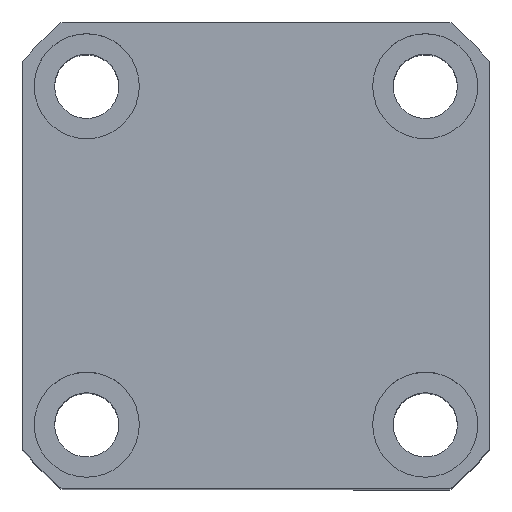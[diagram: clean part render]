
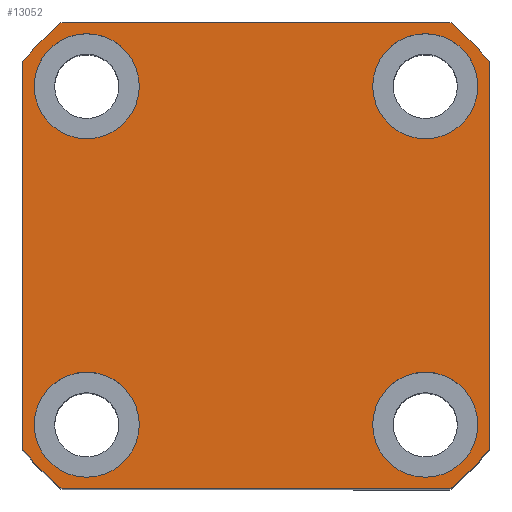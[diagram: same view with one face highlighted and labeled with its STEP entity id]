
A CAD part, top view. The second image highlights one B-rep face of the part: STEP entity #13052.
In plain terms, the highlighted planar face has unit normal (0, 0, 1).
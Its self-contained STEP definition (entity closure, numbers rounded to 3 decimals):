
#5 = CARTESIAN_POINT ( 'NONE',  ( 20., -29., 52.5 ) ) ;
#59 = CIRCLE ( 'NONE', #5314, 9. ) ;
#75 = FACE_BOUND ( 'NONE', #10125, .T. ) ;
#232 = CARTESIAN_POINT ( 'NONE',  ( 33.226, -40., 52.5 ) ) ;
#297 = VECTOR ( 'NONE', #7041, 1000. ) ;
#320 = VERTEX_POINT ( 'NONE', #5 ) ;
#355 = EDGE_CURVE ( 'NONE', #7343, #7057, #12745, .T. ) ;
#712 = DIRECTION ( 'NONE',  ( 1., 0., 0. ) ) ;
#805 = CIRCLE ( 'NONE', #6013, 9. ) ;
#885 = EDGE_LOOP ( 'NONE', ( #1182, #12646, #6541, #7180, #13482, #10115, #12843, #6097 ) ) ;
#949 = FACE_BOUND ( 'NONE', #9602, .T. ) ;
#1000 = DIRECTION ( 'NONE',  ( 0., 1., 0. ) ) ;
#1182 = ORIENTED_EDGE ( 'NONE', *, *, #7613, .T. ) ;
#1224 = CARTESIAN_POINT ( 'NONE',  ( 0., 0., 52.5 ) ) ;
#1284 = ORIENTED_EDGE ( 'NONE', *, *, #14601, .F. ) ;
#1506 = CARTESIAN_POINT ( 'NONE',  ( 29., 29., 52.5 ) ) ;
#1639 = AXIS2_PLACEMENT_3D ( 'NONE', #14542, #6299, #16078 ) ;
#1720 = CIRCLE ( 'NONE', #8929, 52. ) ;
#1885 = CARTESIAN_POINT ( 'NONE',  ( 38., -29., 52.5 ) ) ;
#1925 = CARTESIAN_POINT ( 'NONE',  ( -29., -29., 52.5 ) ) ;
#1964 = CARTESIAN_POINT ( 'NONE',  ( -40., 33.226, 52.5 ) ) ;
#2025 = CARTESIAN_POINT ( 'NONE',  ( 29., -29., 52.5 ) ) ;
#2386 = VECTOR ( 'NONE', #1000, 1000. ) ;
#2492 = ORIENTED_EDGE ( 'NONE', *, *, #16260, .F. ) ;
#2586 = VERTEX_POINT ( 'NONE', #10022 ) ;
#2589 = DIRECTION ( 'NONE',  ( 0., 0., 1. ) ) ;
#2641 = ORIENTED_EDGE ( 'NONE', *, *, #6786, .F. ) ;
#2750 = CARTESIAN_POINT ( 'NONE',  ( 38., 29., 52.5 ) ) ;
#2893 = VERTEX_POINT ( 'NONE', #13457 ) ;
#3118 = DIRECTION ( 'NONE',  ( 1., 0., 0. ) ) ;
#3120 = VERTEX_POINT ( 'NONE', #1885 ) ;
#3311 = AXIS2_PLACEMENT_3D ( 'NONE', #8675, #6195, #3118 ) ;
#3705 = ORIENTED_EDGE ( 'NONE', *, *, #16728, .F. ) ;
#3723 = LINE ( 'NONE', #6678, #17517 ) ;
#3771 = AXIS2_PLACEMENT_3D ( 'NONE', #1224, #2589, #3947 ) ;
#3815 = CARTESIAN_POINT ( 'NONE',  ( -29., -29., 52.5 ) ) ;
#3947 = DIRECTION ( 'NONE',  ( 1., 0., 0. ) ) ;
#3952 = CARTESIAN_POINT ( 'NONE',  ( -40., -33.226, 52.5 ) ) ;
#4203 = VERTEX_POINT ( 'NONE', #14798 ) ;
#4490 = CARTESIAN_POINT ( 'NONE',  ( -33.226, -40., 52.5 ) ) ;
#4491 = AXIS2_PLACEMENT_3D ( 'NONE', #10481, #16188, #9289 ) ;
#4598 = LINE ( 'NONE', #15132, #2386 ) ;
#5074 = AXIS2_PLACEMENT_3D ( 'NONE', #3815, #6624, #5367 ) ;
#5087 = DIRECTION ( 'NONE',  ( 1., 0., 0. ) ) ;
#5314 = AXIS2_PLACEMENT_3D ( 'NONE', #11902, #11961, #5087 ) ;
#5367 = DIRECTION ( 'NONE',  ( 1., 0., 0. ) ) ;
#5499 = AXIS2_PLACEMENT_3D ( 'NONE', #17402, #14632, #7532 ) ;
#5603 = DIRECTION ( 'NONE',  ( 1., 0., 0. ) ) ;
#5848 = EDGE_CURVE ( 'NONE', #7571, #11820, #9327, .T. ) ;
#6013 = AXIS2_PLACEMENT_3D ( 'NONE', #2025, #11796, #15779 ) ;
#6097 = ORIENTED_EDGE ( 'NONE', *, *, #355, .T. ) ;
#6174 = CIRCLE ( 'NONE', #12873, 9. ) ;
#6195 = DIRECTION ( 'NONE',  ( 0., 0., 1. ) ) ;
#6247 = CARTESIAN_POINT ( 'NONE',  ( 0., 0., 52.5 ) ) ;
#6299 = DIRECTION ( 'NONE',  ( 0., 0., 1. ) ) ;
#6405 = CIRCLE ( 'NONE', #15861, 9. ) ;
#6424 = EDGE_CURVE ( 'NONE', #3120, #320, #805, .T. ) ;
#6541 = ORIENTED_EDGE ( 'NONE', *, *, #5848, .T. ) ;
#6614 = ORIENTED_EDGE ( 'NONE', *, *, #6424, .F. ) ;
#6624 = DIRECTION ( 'NONE',  ( 0., 0., 1. ) ) ;
#6678 = CARTESIAN_POINT ( 'NONE',  ( -40., 33.226, 52.5 ) ) ;
#6786 = EDGE_CURVE ( 'NONE', #4203, #2893, #59, .T. ) ;
#6859 = CARTESIAN_POINT ( 'NONE',  ( -33.226, -40., 52.5 ) ) ;
#6873 = DIRECTION ( 'NONE',  ( 0., 0., 1. ) ) ;
#6924 = CARTESIAN_POINT ( 'NONE',  ( 0., 0., 52.5 ) ) ;
#7013 = CIRCLE ( 'NONE', #1639, 9. ) ;
#7041 = DIRECTION ( 'NONE',  ( -1., 0., 0. ) ) ;
#7057 = VERTEX_POINT ( 'NONE', #8257 ) ;
#7180 = ORIENTED_EDGE ( 'NONE', *, *, #16218, .T. ) ;
#7343 = VERTEX_POINT ( 'NONE', #11280 ) ;
#7419 = EDGE_CURVE ( 'NONE', #13292, #14936, #4598, .T. ) ;
#7486 = VERTEX_POINT ( 'NONE', #12088 ) ;
#7532 = DIRECTION ( 'NONE',  ( 1., 0., 0. ) ) ;
#7571 = VERTEX_POINT ( 'NONE', #3952 ) ;
#7613 = EDGE_CURVE ( 'NONE', #7057, #13511, #11794, .T. ) ;
#8083 = DIRECTION ( 'NONE',  ( 0., -1., 0. ) ) ;
#8257 = CARTESIAN_POINT ( 'NONE',  ( -33.226, 40., 52.5 ) ) ;
#8510 = CARTESIAN_POINT ( 'NONE',  ( -33.226, 40., 52.5 ) ) ;
#8675 = CARTESIAN_POINT ( 'NONE',  ( 29., 29., 52.5 ) ) ;
#8795 = ORIENTED_EDGE ( 'NONE', *, *, #17865, .F. ) ;
#8929 = AXIS2_PLACEMENT_3D ( 'NONE', #6247, #10208, #712 ) ;
#9057 = CARTESIAN_POINT ( 'NONE',  ( 40., 33.226, 52.5 ) ) ;
#9076 = EDGE_CURVE ( 'NONE', #17767, #13292, #17920, .T. ) ;
#9289 = DIRECTION ( 'NONE',  ( 1., 0., 0. ) ) ;
#9327 = CIRCLE ( 'NONE', #3771, 52. ) ;
#9383 = EDGE_CURVE ( 'NONE', #14936, #7343, #1720, .T. ) ;
#9478 = VERTEX_POINT ( 'NONE', #13514 ) ;
#9602 = EDGE_LOOP ( 'NONE', ( #16142, #2492 ) ) ;
#9834 = VECTOR ( 'NONE', #10816, 1000. ) ;
#10022 = CARTESIAN_POINT ( 'NONE',  ( 20., 29., 52.5 ) ) ;
#10115 = ORIENTED_EDGE ( 'NONE', *, *, #7419, .T. ) ;
#10125 = EDGE_LOOP ( 'NONE', ( #3705, #2641 ) ) ;
#10208 = DIRECTION ( 'NONE',  ( 0., 0., 1. ) ) ;
#10277 = ORIENTED_EDGE ( 'NONE', *, *, #12761, .F. ) ;
#10481 = CARTESIAN_POINT ( 'NONE',  ( -29., 29., 52.5 ) ) ;
#10582 = CARTESIAN_POINT ( 'NONE',  ( 0., 0., 52.5 ) ) ;
#10630 = DIRECTION ( 'NONE',  ( 0., 0., 1. ) ) ;
#10816 = DIRECTION ( 'NONE',  ( 1., 0., 0. ) ) ;
#10887 = AXIS2_PLACEMENT_3D ( 'NONE', #6924, #6873, #16679 ) ;
#11053 = EDGE_CURVE ( 'NONE', #9478, #7486, #6405, .T. ) ;
#11280 = CARTESIAN_POINT ( 'NONE',  ( 33.226, 40., 52.5 ) ) ;
#11391 = VERTEX_POINT ( 'NONE', #2750 ) ;
#11794 = CIRCLE ( 'NONE', #10887, 52. ) ;
#11796 = DIRECTION ( 'NONE',  ( 0., 0., 1. ) ) ;
#11814 = CIRCLE ( 'NONE', #3311, 9. ) ;
#11820 = VERTEX_POINT ( 'NONE', #4490 ) ;
#11902 = CARTESIAN_POINT ( 'NONE',  ( -29., 29., 52.5 ) ) ;
#11961 = DIRECTION ( 'NONE',  ( 0., 0., 1. ) ) ;
#12088 = CARTESIAN_POINT ( 'NONE',  ( -38., -29., 52.5 ) ) ;
#12278 = FACE_BOUND ( 'NONE', #17778, .T. ) ;
#12646 = ORIENTED_EDGE ( 'NONE', *, *, #16325, .T. ) ;
#12684 = CARTESIAN_POINT ( 'NONE',  ( 40., -33.226, 52.5 ) ) ;
#12745 = LINE ( 'NONE', #8510, #297 ) ;
#12761 = EDGE_CURVE ( 'NONE', #320, #3120, #7013, .T. ) ;
#12843 = ORIENTED_EDGE ( 'NONE', *, *, #9383, .T. ) ;
#12873 = AXIS2_PLACEMENT_3D ( 'NONE', #1506, #14011, #5603 ) ;
#13052 = ADVANCED_FACE ( 'NONE', ( #17323, #949, #75, #12278, #13804 ), #13302, .T. ) ;
#13126 = CIRCLE ( 'NONE', #5074, 9. ) ;
#13292 = VERTEX_POINT ( 'NONE', #12684 ) ;
#13302 = PLANE ( 'NONE',  #5499 ) ;
#13457 = CARTESIAN_POINT ( 'NONE',  ( -20., 29., 52.5 ) ) ;
#13482 = ORIENTED_EDGE ( 'NONE', *, *, #9076, .T. ) ;
#13511 = VERTEX_POINT ( 'NONE', #1964 ) ;
#13514 = CARTESIAN_POINT ( 'NONE',  ( -20., -29., 52.5 ) ) ;
#13804 = FACE_OUTER_BOUND ( 'NONE', #885, .T. ) ;
#14011 = DIRECTION ( 'NONE',  ( 0., 0., 1. ) ) ;
#14542 = CARTESIAN_POINT ( 'NONE',  ( 29., -29., 52.5 ) ) ;
#14601 = EDGE_CURVE ( 'NONE', #2586, #11391, #6174, .T. ) ;
#14632 = DIRECTION ( 'NONE',  ( 0., 0., 1. ) ) ;
#14798 = CARTESIAN_POINT ( 'NONE',  ( -38., 29., 52.5 ) ) ;
#14862 = CIRCLE ( 'NONE', #4491, 9. ) ;
#14936 = VERTEX_POINT ( 'NONE', #9057 ) ;
#15132 = CARTESIAN_POINT ( 'NONE',  ( 40., 33.226, 52.5 ) ) ;
#15779 = DIRECTION ( 'NONE',  ( 1., 0., 0. ) ) ;
#15861 = AXIS2_PLACEMENT_3D ( 'NONE', #1925, #17164, #17395 ) ;
#16078 = DIRECTION ( 'NONE',  ( 1., 0., 0. ) ) ;
#16142 = ORIENTED_EDGE ( 'NONE', *, *, #11053, .F. ) ;
#16188 = DIRECTION ( 'NONE',  ( 0., 0., 1. ) ) ;
#16218 = EDGE_CURVE ( 'NONE', #11820, #17767, #17288, .T. ) ;
#16260 = EDGE_CURVE ( 'NONE', #7486, #9478, #13126, .T. ) ;
#16325 = EDGE_CURVE ( 'NONE', #13511, #7571, #3723, .T. ) ;
#16505 = EDGE_LOOP ( 'NONE', ( #6614, #10277 ) ) ;
#16679 = DIRECTION ( 'NONE',  ( 1., 0., 0. ) ) ;
#16728 = EDGE_CURVE ( 'NONE', #2893, #4203, #14862, .T. ) ;
#16787 = AXIS2_PLACEMENT_3D ( 'NONE', #10582, #10630, #17572 ) ;
#17164 = DIRECTION ( 'NONE',  ( 0., 0., 1. ) ) ;
#17288 = LINE ( 'NONE', #6859, #9834 ) ;
#17323 = FACE_BOUND ( 'NONE', #16505, .T. ) ;
#17395 = DIRECTION ( 'NONE',  ( 1., 0., 0. ) ) ;
#17402 = CARTESIAN_POINT ( 'NONE',  ( 0., 0., 52.5 ) ) ;
#17517 = VECTOR ( 'NONE', #8083, 1000. ) ;
#17572 = DIRECTION ( 'NONE',  ( 1., 0., 0. ) ) ;
#17767 = VERTEX_POINT ( 'NONE', #232 ) ;
#17778 = EDGE_LOOP ( 'NONE', ( #8795, #1284 ) ) ;
#17865 = EDGE_CURVE ( 'NONE', #11391, #2586, #11814, .T. ) ;
#17920 = CIRCLE ( 'NONE', #16787, 52. ) ;
